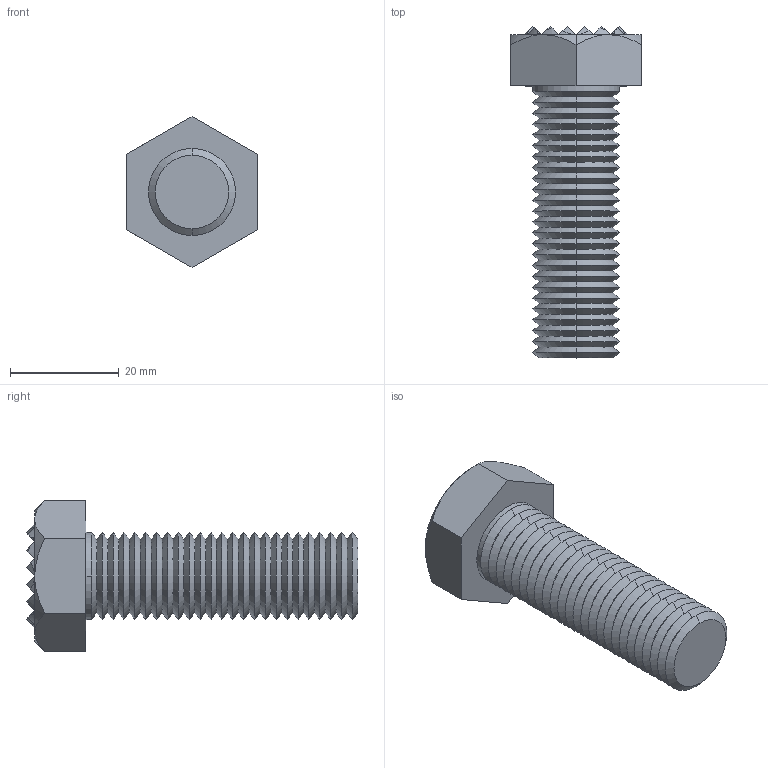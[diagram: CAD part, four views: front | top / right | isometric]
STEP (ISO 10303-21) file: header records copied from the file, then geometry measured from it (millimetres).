
FILE_DESCRIPTION (( 'STEP AP203' ), '1' );
FILE_NAME ('35400.W0012.step', '2017-07-03T07:22:21', ( 'User' ), ( '' ), 'SwSTEP 2.0', 'SolidWorks 2009', '' );
FILE_SCHEMA (( 'CONFIG_CONTROL_DESIGN' ));
Length unit declared in the file: millimetre
Products named in the file (1): 35400.W0012
Bounding box: 24 x 61 x 27.71 mm (x, y, z)
Volume: 13411.5 mm3; surface area: 5500 mm2
Topology: 1 solids, 1 shells, 264 faces, 480 edges, 220 vertices
Faces by surface type: plane 137, cone 125, cylinder 2
Entity records: 6191 total; most frequent: CARTESIAN_POINT 1192, DIRECTION 1081, ORIENTED_EDGE 960, EDGE_CURVE 480, AXIS2_PLACEMENT_3D 396, VECTOR 289, LINE 289, EDGE_LOOP 266
